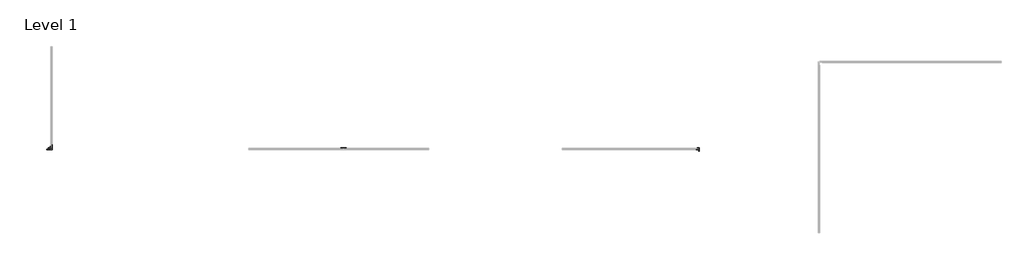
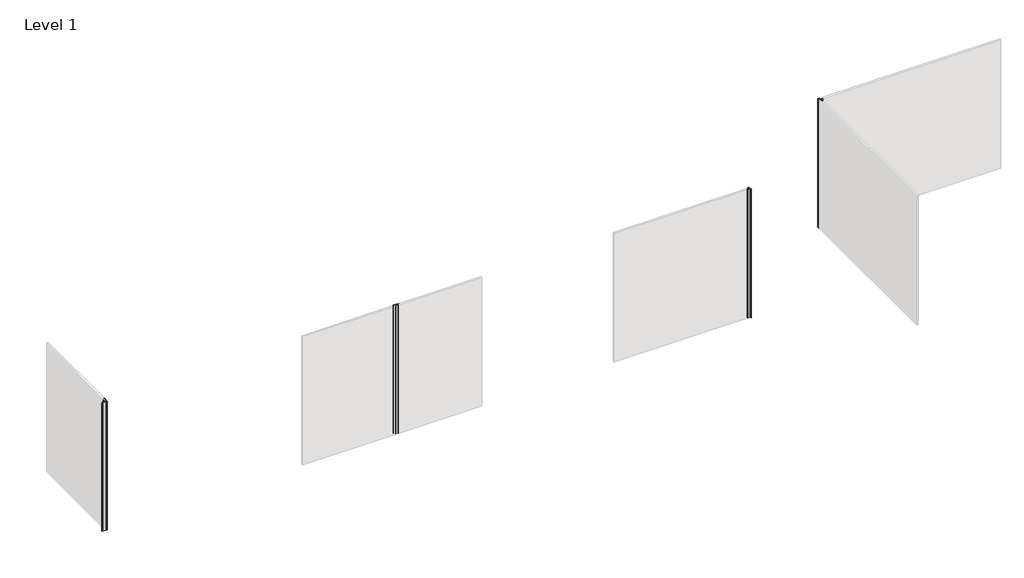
# One storey, part 2 of 2: 4 proxies.
"""IFC4 building model written with IfcOpenShell, lengths in millimetres."""

from ifc_helpers import new_model, si_unit, point, frame, frame_2d, origin, place, context, project, spatial, polyline, circle_curve, trimmed, segment, composite_curve, outline, extrude, element, save
from ifc_brep_helpers import plane_surface, cylinder_surface, revolved_surface, advanced_brep

model = new_model("IFC4")

# Units and contexts
model_context = context("Model", 3, world=origin())
ifc_project = project(units=[si_unit("LENGTHUNIT", "METRE", prefix="MILLI")], contexts=[model_context])

# Site, building, storey
site = spatial("IfcSite", under=ifc_project)
building = spatial("IfcBuilding", under=site)
storey = spatial("IfcBuildingStorey", under=building, Name="Level 1", Elevation=0.0)

# Proxies
placement = place(None, origin())
element("IfcBuildingElementProxy", 1, Name="End Trim US44 - Brazilian Ipe", ObjectType="End Trim US44 - Brazilian Ipe", at=placement, inside=storey, context=model_context, shape_type="SweptSolid", body=[
    extrude(outline(composite_curve([segment(polyline([(-3956.7244107, -3552.517134), (-3990.2244107, -3552.517134)]), True, "CONTINUOUS"), segment(trimmed(circle_curve(frame_2d((-3990.2244107, -3550.517134)), 2.0), [point((-3990.2244107, -3552.517134))], [point((-3992.2244107, -3550.517134))], False, "CARTESIAN"), True, "CONTINUOUS"), segment(polyline([(-3992.2244107, -3550.517134), (-3992.2244107, -3546.017134)]), True, "CONTINUOUS"), segment(trimmed(circle_curve(frame_2d((-3991.2244107, -3546.017134)), 1.0), [point((-3992.2244107, -3546.017134))], [point((-3991.2244107, -3545.017134))], False, "CARTESIAN"), True, "CONTINUOUS"), segment(polyline([(-3991.2244107, -3545.017134), (-3956.2244107, -3545.017134)]), True, "CONTINUOUS"), segment(trimmed(circle_curve(frame_2d((-3956.2244107, -3544.017134)), 1.0), [point((-3956.2244107, -3545.017134))], [point((-3955.2244107, -3544.017134))], True, "CARTESIAN"), True, "CONTINUOUS"), segment(polyline([(-3955.2244107, -3544.017134), (-3955.2244107, -3532.017134)]), True, "CONTINUOUS"), segment(trimmed(circle_curve(frame_2d((-3956.2244107, -3532.017134)), 1.0), [point((-3955.2244107, -3532.017134))], [point((-3956.2244107, -3531.017134))], True, "CARTESIAN"), True, "CONTINUOUS"), segment(polyline([(-3956.2244107, -3531.017134), (-3971.2244107, -3531.017134)]), True, "CONTINUOUS"), segment(trimmed(circle_curve(frame_2d((-3971.2244107, -3530.017134)), 1.0), [point((-3971.2244107, -3531.017134))], [point((-3972.2244107, -3530.017134))], False, "CARTESIAN"), True, "CONTINUOUS"), segment(polyline([(-3972.2244107, -3530.017134), (-3972.2244107, -3527.517134)]), True, "CONTINUOUS"), segment(trimmed(circle_curve(frame_2d((-3970.2244107, -3527.517134)), 2.0), [point((-3972.2244107, -3527.517134))], [point((-3970.2244107, -3525.517134))], False, "CARTESIAN"), True, "CONTINUOUS"), segment(polyline([(-3970.2244107, -3525.517134), (-3952.2244107, -3525.517134)]), True, "CONTINUOUS"), segment(trimmed(circle_curve(frame_2d((-3952.2244107, -3527.517134)), 2.0), [point((-3952.2244107, -3525.517134))], [point((-3950.2244107, -3527.517134))], False, "CARTESIAN"), True, "CONTINUOUS"), segment(polyline([(-3950.2244107, -3527.517134), (-3950.2244107, -3571.517134)]), True, "CONTINUOUS"), segment(trimmed(circle_curve(frame_2d((-3951.2244107, -3571.517134)), 1.0), [point((-3950.2244107, -3571.517134))], [point((-3951.2244107, -3572.517134))], False, "CARTESIAN"), True, "CONTINUOUS"), segment(polyline([(-3951.2244107, -3572.517134), (-3954.2244107, -3572.517134)]), True, "CONTINUOUS"), segment(trimmed(circle_curve(frame_2d((-3954.2244107, -3571.517134)), 1.0), [point((-3954.2244107, -3572.517134))], [point((-3955.2244107, -3571.517134))], False, "CARTESIAN"), True, "CONTINUOUS"), segment(polyline([(-3955.2244107, -3571.517134), (-3955.2244107, -3554.017134)]), True, "CONTINUOUS"), segment(trimmed(circle_curve(frame_2d((-3956.7244107, -3554.017134)), 1.5), [point((-3955.2244107, -3554.017134))], [point((-3956.7244107, -3552.517134))], True, "CARTESIAN"), True, "CONTINUOUS")], self_intersect=False)), frame((0.0, 0.0, 304.8), z_axis=(0.0, 0.0, 1.0), x_axis=(1.0, 0.0, 0.0)), (0.0, 0.0, 1.0), 1828.8),
])
element("IfcBuildingElementProxy", 2, Name="Outer Corner US46 - Wesminister Gray", ObjectType="Outer Corner US46 - Wesminister Gray", at=placement, inside=storey, context=model_context, shape_type="AdvancedBrep", body=[
    advanced_brep(
    [(-2340.5890039, -2423.6995325, 304.8), (-2341.5890039, -2422.6995325, 304.8), (-2341.5890039, -2387.2185217, 304.8), (-2342.1411345, -2385.5260816, 304.8), (-2352.373264, -2375.2939521, 304.8), (-2355.5890039, -2376.8350959, 304.8), (-2355.5890039, -2388.0782122, 304.8), (-2356.5890039, -2389.0782122, 304.8), (-2359.0890039, -2389.0782122, 304.8), (-2361.0890039, -2387.0782122, 304.8), (-2361.0890039, -2365.0302512, 304.8), (-2359.1014309, -2363.0426783, 304.8), (-2337.05347, -2363.0426783, 304.8), (-2335.05347, -2365.0426783, 304.8), (-2335.05347, -2367.5426783, 304.8), (-2336.05347, -2368.5426783, 304.8), (-2347.2965862, -2368.5426783, 304.8), (-2348.8377301, -2371.7584181, 304.8), (-2338.6056005, -2381.9905477, 304.8), (-2336.9131605, -2382.5426783, 304.8), (-2334.9515039, -2382.5426783, 304.8), (-2301.4321496, -2382.5426783, 304.8), (-2300.4321496, -2383.5426783, 304.8), (-2300.4321496, -2388.0426783, 304.8), (-2300.7869838, -2389.1796861, 304.8), (-2302.4321496, -2390.0426783, 304.8), (-2332.0700561, -2390.0426783, 304.8), (-2334.0890039, -2392.0616261, 304.8), (-2334.0890039, -2421.6995325, 304.8), (-2336.0890039, -2423.6995325, 304.8), (-2340.5890039, -2423.6995325, 2133.6), (-2336.0890039, -2423.6995325, 2133.6), (-2334.0890039, -2421.6995325, 2133.6), (-2334.0890039, -2392.0616261, 2133.6), (-2332.0700561, -2390.0426783, 2133.6), (-2302.4321496, -2390.0426783, 2133.6), (-2300.7869838, -2389.1796861, 2133.6), (-2300.4321496, -2388.0426783, 2133.6), (-2300.4321496, -2383.5426783, 2133.6), (-2301.4321496, -2382.5426783, 2133.6), (-2334.9515039, -2382.5426783, 2133.6), (-2336.9131605, -2382.5426783, 2133.6), (-2338.6056005, -2381.9905477, 2133.6), (-2348.8377301, -2371.7584181, 2133.6), (-2347.2965862, -2368.5426783, 2133.6), (-2336.05347, -2368.5426783, 2133.6), (-2335.05347, -2367.5426783, 2133.6), (-2335.05347, -2365.0426783, 2133.6), (-2337.05347, -2363.0426783, 2133.6), (-2359.1014309, -2363.0426783, 2133.6), (-2361.0890039, -2365.0302512, 2133.6), (-2361.0890039, -2387.0782122, 2133.6), (-2359.0890039, -2389.0782122, 2133.6), (-2356.5890039, -2389.0782122, 2133.6), (-2355.5890039, -2388.0782122, 2133.6), (-2355.5890039, -2376.8350959, 2133.6), (-2352.373264, -2375.2939521, 2133.6), (-2342.1411345, -2385.5260816, 2133.6), (-2341.5890039, -2387.2185217, 2133.6), (-2341.5890039, -2422.6995325, 2133.6)],
    [
        (0, 1, circle_curve(frame((-2340.5890039, -2422.6995325, 304.8), z_axis=(0.0, 0.0, -1.0), x_axis=(-1.0, 0.0, 0.0)), 1.0)),
        (1, 2),
        (2, 3, circle_curve(frame((-2343.5307579, -2386.915705, 304.8), z_axis=(0.0, 0.0, 1.0), x_axis=(-1.0, 0.0, 0.0)), 1.9652243)),
        (3, 4),
        (4, 5, circle_curve(frame((-2353.6118372, -2376.8350959, 304.8), z_axis=(0.0, 0.0, 1.0), x_axis=(-1.0, 0.0, 0.0)), 1.9771667)),
        (5, 6),
        (6, 7, circle_curve(frame((-2356.5890039, -2388.0782122, 304.8), z_axis=(0.0, 0.0, -1.0), x_axis=(-1.0, 0.0, 0.0)), 1.0)),
        (7, 8),
        (8, 9, circle_curve(frame((-2359.0890039, -2387.0782122, 304.8), z_axis=(0.0, 0.0, -1.0), x_axis=(-1.0, 0.0, 0.0)), 2.0)),
        (9, 10),
        (10, 11, circle_curve(frame((-2359.0890422, -2365.0426399, 304.8), z_axis=(0.0, 0.0, -1.0), x_axis=(-1.0, 0.0, 0.0)), 2.0)),
        (11, 12),
        (12, 13, circle_curve(frame((-2337.05347, -2365.0426783, 304.8), z_axis=(0.0, 0.0, -1.0), x_axis=(-1.0, 0.0, 0.0)), 2.0)),
        (13, 14),
        (14, 15, circle_curve(frame((-2336.05347, -2367.5426783, 304.8), z_axis=(0.0, 0.0, -1.0), x_axis=(-1.0, 0.0, 0.0)), 1.0)),
        (15, 16),
        (16, 17, circle_curve(frame((-2347.2965862, -2370.5198449, 304.8), z_axis=(0.0, 0.0, 1.0), x_axis=(-1.0, 0.0, 0.0)), 1.9771667)),
        (17, 18),
        (18, 19, circle_curve(frame((-2337.2159771, -2380.6009243, 304.8), z_axis=(0.0, 0.0, 1.0), x_axis=(-1.0, 0.0, 0.0)), 1.9652243)),
        (19, 20),
        (20, 21),
        (21, 22, circle_curve(frame((-2301.4321496, -2383.5426783, 304.8), z_axis=(0.0, 0.0, -1.0), x_axis=(-1.0, 0.0, 0.0)), 1.0)),
        (22, 23),
        (23, 24, circle_curve(frame((-2302.4321496, -2388.0426783, 304.8), z_axis=(0.0, 0.0, -1.0), x_axis=(-1.0, 0.0, 0.0)), 2.0)),
        (24, 25, circle_curve(frame((-2302.4321496, -2388.0426783, 304.8), z_axis=(0.0, 0.0, -1.0), x_axis=(-1.0, 0.0, 0.0)), 1.9998394)),
        (25, 26),
        (26, 27, circle_curve(frame((-2332.2923641, -2391.8393181, 304.8), z_axis=(0.0, 0.0, 1.0), x_axis=(-1.0, 0.0, 0.0)), 1.8103413)),
        (27, 28),
        (28, 29, circle_curve(frame((-2336.0890039, -2421.6995325, 304.8), z_axis=(0.0, 0.0, -1.0), x_axis=(-1.0, 0.0, 0.0)), 2.0)),
        (29, 0),
        (30, 31),
        (31, 32, circle_curve(frame((-2336.0890039, -2421.6995325, 2133.6), z_axis=(0.0, 0.0, 1.0), x_axis=(-1.0, 0.0, 0.0)), 2.0)),
        (32, 33),
        (33, 34, circle_curve(frame((-2332.2923641, -2391.8393181, 2133.6), z_axis=(0.0, 0.0, -1.0), x_axis=(-1.0, 0.0, 0.0)), 1.8103413)),
        (34, 35),
        (35, 36, circle_curve(frame((-2302.4321496, -2388.0426783, 2133.6), z_axis=(0.0, 0.0, 1.0), x_axis=(-1.0, 0.0, 0.0)), 2.0)),
        (36, 37, circle_curve(frame((-2302.4321496, -2388.0426783, 2133.6), z_axis=(0.0, 0.0, 1.0), x_axis=(-1.0, 0.0, 0.0)), 1.9998394)),
        (37, 38),
        (38, 39, circle_curve(frame((-2301.4321496, -2383.5426783, 2133.6), z_axis=(0.0, 0.0, 1.0), x_axis=(-1.0, 0.0, 0.0)), 1.0)),
        (39, 40),
        (40, 41),
        (41, 42, circle_curve(frame((-2337.2159771, -2380.6009243, 2133.6), z_axis=(0.0, 0.0, -1.0), x_axis=(-1.0, 0.0, 0.0)), 1.9652243)),
        (42, 43),
        (43, 44, circle_curve(frame((-2347.2965862, -2370.5198449, 2133.6), z_axis=(0.0, 0.0, -1.0), x_axis=(-1.0, 0.0, 0.0)), 1.9771667)),
        (44, 45),
        (45, 46, circle_curve(frame((-2336.05347, -2367.5426783, 2133.6), z_axis=(0.0, 0.0, 1.0), x_axis=(-1.0, 0.0, 0.0)), 1.0)),
        (46, 47),
        (47, 48, circle_curve(frame((-2337.05347, -2365.0426783, 2133.6), z_axis=(0.0, 0.0, 1.0), x_axis=(-1.0, 0.0, 0.0)), 2.0)),
        (48, 49),
        (49, 50, circle_curve(frame((-2359.0890422, -2365.0426399, 2133.6), z_axis=(0.0, 0.0, 1.0), x_axis=(-1.0, 0.0, 0.0)), 2.0)),
        (50, 51),
        (51, 52, circle_curve(frame((-2359.0890039, -2387.0782122, 2133.6), z_axis=(0.0, 0.0, 1.0), x_axis=(-1.0, 0.0, 0.0)), 2.0)),
        (52, 53),
        (53, 54, circle_curve(frame((-2356.5890039, -2388.0782122, 2133.6), z_axis=(0.0, 0.0, 1.0), x_axis=(-1.0, 0.0, 0.0)), 1.0)),
        (54, 55),
        (55, 56, circle_curve(frame((-2353.6118372, -2376.8350959, 2133.6), z_axis=(0.0, 0.0, -1.0), x_axis=(-1.0, 0.0, 0.0)), 1.9771667)),
        (56, 57),
        (57, 58, circle_curve(frame((-2343.5307579, -2386.915705, 2133.6), z_axis=(0.0, 0.0, -1.0), x_axis=(-1.0, 0.0, 0.0)), 1.9652243)),
        (58, 59),
        (59, 30, circle_curve(frame((-2340.5890039, -2422.6995325, 2133.6), z_axis=(0.0, 0.0, 1.0), x_axis=(-1.0, 0.0, 0.0)), 1.0)),
        (0, 30),
        (59, 1),
        (58, 2),
        (57, 3),
        (56, 4),
        (55, 5),
        (54, 6),
        (53, 7),
        (52, 8),
        (51, 9),
        (50, 10),
        (49, 11),
        (48, 12),
        (47, 13),
        (46, 14),
        (45, 15),
        (44, 16),
        (43, 17),
        (42, 18),
        (41, 19),
        (39, 21),
        (38, 22),
        (37, 23),
        (35, 25),
        (34, 26),
        (33, 27),
        (32, 28),
        (31, 29),
    ],
    [
        plane_surface(frame((-2355.5890039, -2427.0450592, 304.8), z_axis=(0.0, 0.0, -1.0), x_axis=(1.0, 0.0, 0.0))),
        plane_surface(frame((-2355.5890039, -2427.0450592, 2133.6), z_axis=(0.0, 0.0, 1.0), x_axis=(1.0, 0.0, 0.0))),
        cylinder_surface(frame((-2340.5890039, -2422.6995325, 304.8), z_axis=(0.0, 0.0, -1.0), x_axis=(-1.0, 0.0, 0.0)), 1.0),
        plane_surface(frame((-2341.5890039, -2422.6995325, 304.8), z_axis=(-1.0, 0.0, 0.0), x_axis=(0.0, 0.0, 1.0))),
        revolved_surface(polyline([(-2345.4959822, -2386.915705, 2133.6), (-2345.4959822, -2386.915705, 304.8)]), (-2343.5307579, -2386.915705, 304.8), (0.0, 0.0, 1.0)),
        plane_surface(frame((-2342.1411345, -2385.5260816, 304.8), z_axis=(-0.7071067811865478, -0.7071067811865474, 0.0), x_axis=(0.0, 0.0, 1.0))),
        revolved_surface(polyline([(-2355.5890039, -2376.8350959, 2133.6), (-2355.5890039, -2376.8350959, 304.8)]), (-2353.6118372, -2376.8350959, 304.8), (0.0, 0.0, 1.0)),
        plane_surface(frame((-2355.5890039, -2376.8350959, 304.8), z_axis=(1.0, 0.0, 0.0), x_axis=(0.0, 0.0, 1.0))),
        cylinder_surface(frame((-2356.5890039, -2388.0782122, 304.8), z_axis=(0.0, 0.0, -1.0), x_axis=(-1.0, 0.0, 0.0)), 1.0),
        plane_surface(frame((-2356.5890039, -2389.0782122, 304.8), z_axis=(0.0, -1.0, 0.0), x_axis=(0.0, 0.0, 1.0))),
        cylinder_surface(frame((-2359.0890039, -2387.0782122, 304.8), z_axis=(0.0, 0.0, -1.0), x_axis=(-1.0, 0.0, 0.0)), 2.0),
        plane_surface(frame((-2361.0890039, -2387.0782122, 304.8), z_axis=(-1.0, 0.0, 0.0), x_axis=(0.0, 0.0, 1.0))),
        cylinder_surface(frame((-2359.0890422, -2365.0426399, 304.8), z_axis=(0.0, 0.0, -1.0), x_axis=(-1.0, 0.0, 0.0)), 2.0),
        plane_surface(frame((-2359.1014309, -2363.0426783, 304.8), z_axis=(0.0, 1.0, 0.0), x_axis=(0.0, 0.0, 1.0))),
        cylinder_surface(frame((-2337.05347, -2365.0426783, 304.8), z_axis=(0.0, 0.0, -1.0), x_axis=(-1.0, 0.0, 0.0)), 2.0),
        plane_surface(frame((-2335.05347, -2365.0426783, 304.8), z_axis=(1.0, 0.0, 0.0), x_axis=(0.0, 0.0, 1.0))),
        cylinder_surface(frame((-2336.05347, -2367.5426783, 304.8), z_axis=(0.0, 0.0, -1.0), x_axis=(-1.0, 0.0, 0.0)), 1.0),
        plane_surface(frame((-2336.05347, -2368.5426783, 304.8), z_axis=(0.0, -1.0, 0.0), x_axis=(0.0, 0.0, 1.0))),
        revolved_surface(polyline([(-2349.2737529, -2370.5198449, 2133.6), (-2349.2737529, -2370.5198449, 304.8)]), (-2347.2965862, -2370.5198449, 304.8), (0.0, 0.0, 1.0)),
        plane_surface(frame((-2348.8377301, -2371.7584181, 304.8), z_axis=(0.7071067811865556, 0.7071067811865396, 0.0), x_axis=(0.0, 0.0, 1.0))),
        revolved_surface(polyline([(-2339.1812014, -2380.6009243, 2133.6), (-2339.1812014, -2380.6009243, 304.8)]), (-2337.2159771, -2380.6009243, 304.8), (0.0, 0.0, 1.0)),
        plane_surface(frame((-2336.9131605, -2382.5426783, 304.8), z_axis=(0.0, 1.0, 0.0), x_axis=(0.0, 0.0, 1.0))),
        cylinder_surface(frame((-2301.4321496, -2383.5426783, 304.8), z_axis=(0.0, 0.0, -1.0), x_axis=(-1.0, 0.0, 0.0)), 1.0),
        plane_surface(frame((-2300.4321496, -2383.5426783, 304.8), z_axis=(1.0, 0.0, 0.0), x_axis=(0.0, 0.0, 1.0))),
        cylinder_surface(frame((-2302.4321496, -2388.0426783, 304.8), z_axis=(0.0, 0.0, -1.0), x_axis=(-1.0, 0.0, 0.0)), 2.0),
        plane_surface(frame((-2302.4321496, -2390.0426783, 304.8), z_axis=(0.0, -1.0, 0.0), x_axis=(0.0, 0.0, 1.0))),
        revolved_surface(polyline([(-2334.1027054, -2391.8393181, 2133.6), (-2334.1027054, -2391.8393181, 304.8)]), (-2332.2923641, -2391.8393181, 304.8), (0.0, 0.0, 1.0)),
        plane_surface(frame((-2334.0890039, -2392.0616261, 304.8), z_axis=(1.0, 0.0, 0.0), x_axis=(0.0, 0.0, 1.0))),
        cylinder_surface(frame((-2336.0890039, -2421.6995325, 304.8), z_axis=(0.0, 0.0, -1.0), x_axis=(-1.0, 0.0, 0.0)), 2.0),
        plane_surface(frame((-2336.0890039, -2423.6995325, 304.8), z_axis=(0.0, -1.0, 0.0), x_axis=(0.0, 0.0, 1.0))),
    ],
    [
        (0, [[1, 2, 3, 4, 5, 6, 7, 8, 9, 10, 11, 12, 13, 14, 15, 16, 17, 18, 19, 20, 21, 22, 23, 24, 25, 26, 27, 28, 29, 30]]),
        (1, [[31, 32, 33, 34, 35, 36, 37, 38, 39, 40, 41, 42, 43, 44, 45, 46, 47, 48, 49, 50, 51, 52, 53, 54, 55, 56, 57, 58, 59, 60]]),
        (2, [[-1, 61, -60, 62]]),
        (3, [[-2, -62, -59, 63]]),
        (4, [[-3, -63, -58, 64]]),
        (5, [[-4, -64, -57, 65]]),
        (6, [[-5, -65, -56, 66]]),
        (7, [[-6, -66, -55, 67]]),
        (8, [[-7, -67, -54, 68]]),
        (9, [[-8, -68, -53, 69]]),
        (10, [[-9, -69, -52, 70]]),
        (11, [[-10, -70, -51, 71]]),
        (12, [[-11, -71, -50, 72]]),
        (13, [[-12, -72, -49, 73]]),
        (14, [[-13, -73, -48, 74]]),
        (15, [[-14, -74, -47, 75]]),
        (16, [[-15, -75, -46, 76]]),
        (17, [[-16, -76, -45, 77]]),
        (18, [[-17, -77, -44, 78]]),
        (19, [[-18, -78, -43, 79]]),
        (20, [[-19, -79, -42, 80]]),
        (21, [[-21, -20, -80, -41, -40, 81]]),
        (22, [[-22, -81, -39, 82]]),
        (23, [[-23, -82, -38, 83]]),
        (24, [[-25, -24, -83, -37, -36, 84]]),
        (25, [[-26, -84, -35, 85]]),
        (26, [[-27, -85, -34, 86]]),
        (27, [[-28, -86, -33, 87]]),
        (28, [[-29, -87, -32, 88]]),
        (29, [[-30, -88, -31, -61]]),
    ],
),
])
element("IfcBuildingElementProxy", 3, Name="Joint Trim US45 - Peruvian Teak", ObjectType="Joint Trim US45 - Peruvian Teak", at=placement, inside=storey, context=model_context, shape_type="AdvancedBrep", body=[
    advanced_brep(
    [(-8671.7521319, -3523.517134, 304.8), (-8669.7521319, -3525.517134, 304.8), (-8669.7521319, -3530.017134, 304.8), (-8670.7521319, -3531.017134, 304.8), (-8705.2521319, -3531.017134, 304.8), (-8706.7521319, -3532.517134, 304.8), (-8706.7521319, -3545.017134, 304.8), (-8690.7521319, -3545.017134, 304.8), (-8689.7521319, -3546.017134, 304.8), (-8689.7521319, -3548.517134, 304.8), (-8691.7521319, -3550.517134, 304.8), (-8709.2521319, -3550.517134, 304.8), (-8726.7521319, -3550.517134, 304.8), (-8728.7521319, -3548.517134, 304.8), (-8728.7521319, -3546.017134, 304.8), (-8727.7521319, -3545.017134, 304.8), (-8711.7521319, -3545.017134, 304.8), (-8711.7521319, -3532.517134, 304.8), (-8713.2521319, -3531.017134, 304.8), (-8747.7521319, -3531.017134, 304.8), (-8748.7521319, -3530.017134, 304.8), (-8748.7521319, -3525.517134, 304.8), (-8746.7521319, -3523.517134, 304.8), (-8671.7521319, -3523.517134, 2133.6), (-8746.7521319, -3523.517134, 2133.6), (-8748.7521319, -3525.517134, 2133.6), (-8748.7521319, -3530.017134, 2133.6), (-8747.7521319, -3531.017134, 2133.6), (-8713.2521319, -3531.017134, 2133.6), (-8711.7521319, -3532.517134, 2133.6), (-8711.7521319, -3545.017134, 2133.6), (-8727.7521319, -3545.017134, 2133.6), (-8728.7521319, -3546.017134, 2133.6), (-8728.7521319, -3548.517134, 2133.6), (-8726.7521319, -3550.517134, 2133.6), (-8709.2521319, -3550.517134, 2133.6), (-8691.7521319, -3550.517134, 2133.6), (-8689.7521319, -3548.517134, 2133.6), (-8689.7521319, -3546.017134, 2133.6), (-8690.7521319, -3545.017134, 2133.6), (-8706.7521319, -3545.017134, 2133.6), (-8706.7521319, -3532.517134, 2133.6), (-8705.2521319, -3531.017134, 2133.6), (-8670.7521319, -3531.017134, 2133.6), (-8669.7521319, -3530.017134, 2133.6), (-8669.7521319, -3525.517134, 2133.6)],
    [
        (0, 1, circle_curve(frame((-8671.7521319, -3525.517134, 304.8), z_axis=(0.0, 0.0, -1.0), x_axis=(1.0, 0.0, 0.0)), 2.0)),
        (1, 2),
        (2, 3, circle_curve(frame((-8670.7521319, -3530.017134, 304.8), z_axis=(0.0, 0.0, -1.0), x_axis=(1.0, 0.0, 0.0)), 1.0)),
        (3, 4),
        (4, 5, circle_curve(frame((-8705.2521319, -3532.517134, 304.8), z_axis=(0.0, 0.0, 1.0), x_axis=(1.0, 0.0, 0.0)), 1.5)),
        (5, 6),
        (6, 7),
        (7, 8, circle_curve(frame((-8690.7521319, -3546.017134, 304.8), z_axis=(0.0, 0.0, -1.0), x_axis=(1.0, 0.0, 0.0)), 1.0)),
        (8, 9),
        (9, 10, circle_curve(frame((-8691.7521319, -3548.517134, 304.8), z_axis=(0.0, 0.0, -1.0), x_axis=(1.0, 0.0, 0.0)), 2.0)),
        (10, 11),
        (11, 12),
        (12, 13, circle_curve(frame((-8726.7521319, -3548.517134, 304.8), z_axis=(0.0, 0.0, -1.0), x_axis=(1.0, 0.0, 0.0)), 2.0)),
        (13, 14),
        (14, 15, circle_curve(frame((-8727.7521319, -3546.017134, 304.8), z_axis=(0.0, 0.0, -1.0), x_axis=(1.0, 0.0, 0.0)), 1.0)),
        (15, 16),
        (16, 17),
        (17, 18, circle_curve(frame((-8713.2521319, -3532.517134, 304.8), z_axis=(0.0, 0.0, 1.0), x_axis=(1.0, 0.0, 0.0)), 1.5)),
        (18, 19),
        (19, 20, circle_curve(frame((-8747.7521319, -3530.017134, 304.8), z_axis=(0.0, 0.0, -1.0), x_axis=(1.0, 0.0, 0.0)), 1.0)),
        (20, 21),
        (21, 22, circle_curve(frame((-8746.7521319, -3525.517134, 304.8), z_axis=(0.0, 0.0, -1.0), x_axis=(1.0, 0.0, 0.0)), 2.0)),
        (22, 0),
        (23, 24),
        (24, 25, circle_curve(frame((-8746.7521319, -3525.517134, 2133.6), z_axis=(0.0, 0.0, 1.0), x_axis=(1.0, 0.0, 0.0)), 2.0)),
        (25, 26),
        (26, 27, circle_curve(frame((-8747.7521319, -3530.017134, 2133.6), z_axis=(0.0, 0.0, 1.0), x_axis=(1.0, 0.0, 0.0)), 1.0)),
        (27, 28),
        (28, 29, circle_curve(frame((-8713.2521319, -3532.517134, 2133.6), z_axis=(0.0, 0.0, -1.0), x_axis=(1.0, 0.0, 0.0)), 1.5)),
        (29, 30),
        (30, 31),
        (31, 32, circle_curve(frame((-8727.7521319, -3546.017134, 2133.6), z_axis=(0.0, 0.0, 1.0), x_axis=(1.0, 0.0, 0.0)), 1.0)),
        (32, 33),
        (33, 34, circle_curve(frame((-8726.7521319, -3548.517134, 2133.6), z_axis=(0.0, 0.0, 1.0), x_axis=(1.0, 0.0, 0.0)), 2.0)),
        (34, 35),
        (35, 36),
        (36, 37, circle_curve(frame((-8691.7521319, -3548.517134, 2133.6), z_axis=(0.0, 0.0, 1.0), x_axis=(1.0, 0.0, 0.0)), 2.0)),
        (37, 38),
        (38, 39, circle_curve(frame((-8690.7521319, -3546.017134, 2133.6), z_axis=(0.0, 0.0, 1.0), x_axis=(1.0, 0.0, 0.0)), 1.0)),
        (39, 40),
        (40, 41),
        (41, 42, circle_curve(frame((-8705.2521319, -3532.517134, 2133.6), z_axis=(0.0, 0.0, -1.0), x_axis=(1.0, 0.0, 0.0)), 1.5)),
        (42, 43),
        (43, 44, circle_curve(frame((-8670.7521319, -3530.017134, 2133.6), z_axis=(0.0, 0.0, 1.0), x_axis=(1.0, 0.0, 0.0)), 1.0)),
        (44, 45),
        (45, 23, circle_curve(frame((-8671.7521319, -3525.517134, 2133.6), z_axis=(0.0, 0.0, 1.0), x_axis=(1.0, 0.0, 0.0)), 2.0)),
        (0, 23),
        (45, 1),
        (44, 2),
        (43, 3),
        (42, 4),
        (41, 5),
        (40, 6),
        (39, 7),
        (38, 8),
        (37, 9),
        (36, 10),
        (34, 12),
        (33, 13),
        (32, 14),
        (31, 15),
        (30, 16),
        (29, 17),
        (28, 18),
        (27, 19),
        (26, 20),
        (25, 21),
        (24, 22),
    ],
    [
        plane_surface(frame((-8709.2521319, -3570.8982072, 304.8), z_axis=(0.0, 0.0, -1.0), x_axis=(1.0, 0.0, 0.0))),
        plane_surface(frame((-8709.2521319, -3570.8982072, 2133.6), z_axis=(0.0, 0.0, 1.0), x_axis=(1.0, 0.0, 0.0))),
        cylinder_surface(frame((-8671.7521319, -3525.517134, 304.8), z_axis=(0.0, 0.0, -1.0), x_axis=(1.0, 0.0, 0.0)), 2.0),
        plane_surface(frame((-8669.7521319, -3525.517134, 304.8), z_axis=(1.0, 0.0, 0.0), x_axis=(0.0, 0.0, 1.0))),
        cylinder_surface(frame((-8670.7521319, -3530.017134, 304.8), z_axis=(0.0, 0.0, -1.0), x_axis=(1.0, 0.0, 0.0)), 1.0),
        plane_surface(frame((-8670.7521319, -3531.017134, 304.8), z_axis=(0.0, -1.0, 0.0), x_axis=(0.0, 0.0, 1.0))),
        revolved_surface(polyline([(-8703.7521319, -3532.517134, 2133.6), (-8703.7521319, -3532.517134, 304.8)]), (-8705.2521319, -3532.517134, 304.8), (0.0, 0.0, 1.0)),
        plane_surface(frame((-8706.7521319, -3532.517134, 304.8), z_axis=(1.0, 0.0, 0.0), x_axis=(0.0, 0.0, 1.0))),
        plane_surface(frame((-8706.7521319, -3545.017134, 304.8), z_axis=(0.0, 1.0, 0.0), x_axis=(0.0, 0.0, 1.0))),
        cylinder_surface(frame((-8690.7521319, -3546.017134, 304.8), z_axis=(0.0, 0.0, -1.0), x_axis=(1.0, 0.0, 0.0)), 1.0),
        plane_surface(frame((-8689.7521319, -3546.017134, 304.8), z_axis=(1.0, 0.0, 0.0), x_axis=(0.0, 0.0, 1.0))),
        cylinder_surface(frame((-8691.7521319, -3548.517134, 304.8), z_axis=(0.0, 0.0, -1.0), x_axis=(1.0, 0.0, 0.0)), 2.0),
        plane_surface(frame((-8691.7521319, -3550.517134, 304.8), z_axis=(0.0, -1.0, 0.0), x_axis=(0.0, 0.0, 1.0))),
        cylinder_surface(frame((-8726.7521319, -3548.517134, 304.8), z_axis=(0.0, 0.0, -1.0), x_axis=(1.0, 0.0, 0.0)), 2.0),
        plane_surface(frame((-8728.7521319, -3548.517134, 304.8), z_axis=(-1.0, 0.0, 0.0), x_axis=(0.0, 0.0, 1.0))),
        cylinder_surface(frame((-8727.7521319, -3546.017134, 304.8), z_axis=(0.0, 0.0, -1.0), x_axis=(1.0, 0.0, 0.0)), 1.0),
        plane_surface(frame((-8727.7521319, -3545.017134, 304.8), z_axis=(0.0, 1.0, 0.0), x_axis=(0.0, 0.0, 1.0))),
        plane_surface(frame((-8711.7521319, -3545.017134, 304.8), z_axis=(-1.0, 0.0, 0.0), x_axis=(0.0, 0.0, 1.0))),
        revolved_surface(polyline([(-8711.7521319, -3532.517134, 2133.6), (-8711.7521319, -3532.517134, 304.8)]), (-8713.2521319, -3532.517134, 304.8), (0.0, 0.0, 1.0)),
        plane_surface(frame((-8713.2521319, -3531.017134, 304.8), z_axis=(0.0, -1.0, 0.0), x_axis=(0.0, 0.0, 1.0))),
        cylinder_surface(frame((-8747.7521319, -3530.017134, 304.8), z_axis=(0.0, 0.0, -1.0), x_axis=(1.0, 0.0, 0.0)), 1.0),
        plane_surface(frame((-8748.7521319, -3530.017134, 304.8), z_axis=(-1.0, 0.0, 0.0), x_axis=(0.0, 0.0, 1.0))),
        cylinder_surface(frame((-8746.7521319, -3525.517134, 304.8), z_axis=(0.0, 0.0, -1.0), x_axis=(1.0, 0.0, 0.0)), 2.0),
        plane_surface(frame((-8746.7521319, -3523.517134, 304.8), z_axis=(0.0, 1.0, 0.0), x_axis=(0.0, 0.0, 1.0))),
    ],
    [
        (0, [[1, 2, 3, 4, 5, 6, 7, 8, 9, 10, 11, 12, 13, 14, 15, 16, 17, 18, 19, 20, 21, 22, 23]]),
        (1, [[24, 25, 26, 27, 28, 29, 30, 31, 32, 33, 34, 35, 36, 37, 38, 39, 40, 41, 42, 43, 44, 45, 46]]),
        (2, [[-1, 47, -46, 48]]),
        (3, [[-2, -48, -45, 49]]),
        (4, [[-3, -49, -44, 50]]),
        (5, [[-4, -50, -43, 51]]),
        (6, [[-5, -51, -42, 52]]),
        (7, [[-6, -52, -41, 53]]),
        (8, [[-7, -53, -40, 54]]),
        (9, [[-8, -54, -39, 55]]),
        (10, [[-9, -55, -38, 56]]),
        (11, [[-10, -56, -37, 57]]),
        (12, [[-12, -11, -57, -36, -35, 58]]),
        (13, [[-13, -58, -34, 59]]),
        (14, [[-14, -59, -33, 60]]),
        (15, [[-15, -60, -32, 61]]),
        (16, [[-16, -61, -31, 62]]),
        (17, [[-17, -62, -30, 63]]),
        (18, [[-18, -63, -29, 64]]),
        (19, [[-19, -64, -28, 65]]),
        (20, [[-20, -65, -27, 66]]),
        (21, [[-21, -66, -26, 67]]),
        (22, [[-22, -67, -25, 68]]),
        (23, [[-23, -68, -24, -47]]),
    ],
),
])
element("IfcBuildingElementProxy", 4, Name="Inner Corner US47 - Roman Antique", ObjectType="Inner Corner US47 - Roman Antique", at=placement, inside=storey, context=model_context, shape_type="AdvancedBrep", body=[
    advanced_brep(
    [(-12619.3380346, -3539.3144474, 304.8), (-12617.1708819, -3538.4049191, 304.8), (-12617.1708819, -3531.017134, 304.8), (-12617.1708819, -3479.6244754, 304.8), (-12615.1708819, -3477.6244754, 304.8), (-12610.6708819, -3477.6244754, 304.8), (-12609.6708819, -3478.6244754, 304.8), (-12609.6708819, -3550.5169168, 304.8), (-12611.6708819, -3552.5169168, 304.8), (-12683.5637578, -3552.5169168, 304.8), (-12684.5637578, -3551.5169168, 304.8), (-12684.5637578, -3547.0169168, 304.8), (-12682.5637578, -3545.0169168, 304.8), (-12623.7975574, -3545.0169168, 304.8), (-12622.8735686, -3542.8499813, 304.8), (-12634.1542852, -3531.5692646, 304.8), (-12635.2414432, -3531.0171852, 304.8), (-12635.8467253, -3531.017134, 304.8), (-12657.8946863, -3531.017134, 304.8), (-12659.8946863, -3529.017134, 304.8), (-12659.8946863, -3526.517134, 304.8), (-12658.8946863, -3525.517134, 304.8), (-12638.6708819, -3525.517134, 304.8), (-12636.6708819, -3523.517134, 304.8), (-12636.6708819, -3503.2933296, 304.8), (-12635.6708819, -3502.2933296, 304.8), (-12633.1708819, -3502.2933296, 304.8), (-12631.1708819, -3504.2933296, 304.8), (-12631.1708819, -3526.3412906, 304.8), (-12630.6187513, -3528.0337307, 304.8), (-12627.635348, -3531.017134, 304.8), (-12619.3380346, -3539.3144474, 2133.6), (-12627.635348, -3531.017134, 2133.6), (-12630.6187513, -3528.0337307, 2133.6), (-12631.1708819, -3526.3412906, 2133.6), (-12631.1708819, -3504.2933296, 2133.6), (-12633.1708819, -3502.2933296, 2133.6), (-12635.6708819, -3502.2933296, 2133.6), (-12636.6708819, -3503.2933296, 2133.6), (-12636.6708819, -3523.517134, 2133.6), (-12638.6708819, -3525.517134, 2133.6), (-12658.8946863, -3525.517134, 2133.6), (-12659.8946863, -3526.517134, 2133.6), (-12659.8946863, -3529.017134, 2133.6), (-12657.8946863, -3531.017134, 2133.6), (-12635.8467253, -3531.017134, 2133.6), (-12635.2414432, -3531.0171852, 2133.6), (-12634.1542852, -3531.5692646, 2133.6), (-12622.8735686, -3542.8499813, 2133.6), (-12623.7975574, -3545.0169168, 2133.6), (-12682.5637578, -3545.0169168, 2133.6), (-12684.5637578, -3547.0169168, 2133.6), (-12684.5637578, -3551.5169168, 2133.6), (-12683.5637578, -3552.5169168, 2133.6), (-12611.6708819, -3552.5169168, 2133.6), (-12609.6708819, -3550.5169168, 2133.6), (-12609.6708819, -3478.6244754, 2133.6), (-12610.6708819, -3477.6244754, 2133.6), (-12615.1708819, -3477.6244754, 2133.6), (-12617.1708819, -3479.6244754, 2133.6), (-12617.1708819, -3531.017134, 2133.6), (-12617.1708819, -3538.4049191, 2133.6)],
    [
        (0, 1, circle_curve(frame((-12618.4403477, -3538.4167605, 304.8), z_axis=(0.0, 0.0, 1.0), x_axis=(-0.7071067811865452, 0.7071067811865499, 0.0)), 1.269521)),
        (1, 2),
        (2, 3),
        (3, 4, circle_curve(frame((-12615.1708819, -3479.6244754, 304.8), z_axis=(0.0, 0.0, -1.0), x_axis=(0.7071067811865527, 0.7071067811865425, 0.0)), 2.0)),
        (4, 5),
        (5, 6, circle_curve(frame((-12610.6708819, -3478.6244754, 304.8), z_axis=(0.0, 0.0, -1.0), x_axis=(0.7071067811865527, 0.7071067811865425, 0.0)), 1.0)),
        (6, 7),
        (7, 8, circle_curve(frame((-12611.6708819, -3550.5169168, 304.8), z_axis=(0.0, 0.0, -1.0), x_axis=(-1.0, 0.0, 0.0)), 2.0)),
        (8, 9),
        (9, 10, circle_curve(frame((-12683.5637578, -3551.5169168, 304.8), z_axis=(0.0, 0.0, -1.0), x_axis=(0.7071067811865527, 0.7071067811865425, 0.0)), 1.0)),
        (10, 11),
        (11, 12, circle_curve(frame((-12682.5637578, -3547.0169168, 304.8), z_axis=(0.0, 0.0, -1.0), x_axis=(0.7071067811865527, 0.7071067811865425, 0.0)), 2.0)),
        (12, 13),
        (13, 14, circle_curve(frame((-12623.7712555, -3543.7476682, 304.8), z_axis=(0.0, 0.0, 1.0), x_axis=(-0.7071067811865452, 0.7071067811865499, 0.0)), 1.269521)),
        (14, 15),
        (15, 16, circle_curve(frame((-12635.5439087, -3532.958888, 304.8), z_axis=(0.0, 0.0, 1.0), x_axis=(-0.7071067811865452, 0.7071067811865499, 0.0)), 1.9652243)),
        (16, 17, circle_curve(frame((-12635.5439087, -3532.958888, 304.8), z_axis=(0.0, 0.0, 1.0), x_axis=(-0.7071067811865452, 0.7071067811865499, 0.0)), 1.9651196)),
        (17, 18),
        (18, 19, circle_curve(frame((-12657.8946863, -3529.017134, 304.8), z_axis=(0.0, 0.0, -1.0), x_axis=(-1.0, 0.0, 0.0)), 2.0)),
        (19, 20),
        (20, 21, circle_curve(frame((-12658.8946863, -3526.517134, 304.8), z_axis=(0.0, 0.0, -1.0), x_axis=(-1.0, 0.0, 0.0)), 1.0)),
        (21, 22),
        (22, 23, circle_curve(frame((-12638.6708819, -3523.517134, 304.8), z_axis=(0.0, 0.0, 1.0), x_axis=(-1.0, 0.0, 0.0)), 2.0)),
        (23, 24),
        (24, 25, circle_curve(frame((-12635.6708819, -3503.2933296, 304.8), z_axis=(0.0, 0.0, -1.0), x_axis=(0.0, 1.0, 0.0)), 1.0)),
        (25, 26),
        (26, 27, circle_curve(frame((-12633.1708819, -3504.2933296, 304.8), z_axis=(0.0, 0.0, -1.0), x_axis=(0.0, 1.0, 0.0)), 2.0)),
        (27, 28),
        (28, 29, circle_curve(frame((-12629.2291279, -3526.6441073, 304.8), z_axis=(0.0, 0.0, 1.0), x_axis=(-0.7071067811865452, 0.7071067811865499, 0.0)), 1.9652243)),
        (29, 30),
        (30, 0),
        (31, 32),
        (32, 33),
        (33, 34, circle_curve(frame((-12629.2291279, -3526.6441073, 2133.6), z_axis=(0.0, 0.0, -1.0), x_axis=(-0.7071067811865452, 0.7071067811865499, 0.0)), 1.9652243)),
        (34, 35),
        (35, 36, circle_curve(frame((-12633.1708819, -3504.2933296, 2133.6), z_axis=(0.0, 0.0, 1.0), x_axis=(0.0, 1.0, 0.0)), 2.0)),
        (36, 37),
        (37, 38, circle_curve(frame((-12635.6708819, -3503.2933296, 2133.6), z_axis=(0.0, 0.0, 1.0), x_axis=(0.0, 1.0, 0.0)), 1.0)),
        (38, 39),
        (39, 40, circle_curve(frame((-12638.6708819, -3523.517134, 2133.6), z_axis=(0.0, 0.0, -1.0), x_axis=(-1.0, 0.0, 0.0)), 2.0)),
        (40, 41),
        (41, 42, circle_curve(frame((-12658.8946863, -3526.517134, 2133.6), z_axis=(0.0, 0.0, 1.0), x_axis=(-1.0, 0.0, 0.0)), 1.0)),
        (42, 43),
        (43, 44, circle_curve(frame((-12657.8946863, -3529.017134, 2133.6), z_axis=(0.0, 0.0, 1.0), x_axis=(-1.0, 0.0, 0.0)), 2.0)),
        (44, 45),
        (45, 46, circle_curve(frame((-12635.5439087, -3532.958888, 2133.6), z_axis=(0.0, 0.0, -1.0), x_axis=(-0.7071067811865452, 0.7071067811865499, 0.0)), 1.9652243)),
        (46, 47, circle_curve(frame((-12635.5439087, -3532.958888, 2133.6), z_axis=(0.0, 0.0, -1.0), x_axis=(-0.7071067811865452, 0.7071067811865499, 0.0)), 1.9651196)),
        (47, 48),
        (48, 49, circle_curve(frame((-12623.7712555, -3543.7476682, 2133.6), z_axis=(0.0, 0.0, -1.0), x_axis=(-0.7071067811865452, 0.7071067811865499, 0.0)), 1.269521)),
        (49, 50),
        (50, 51, circle_curve(frame((-12682.5637578, -3547.0169168, 2133.6), z_axis=(0.0, 0.0, 1.0), x_axis=(0.7071067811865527, 0.7071067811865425, 0.0)), 2.0)),
        (51, 52),
        (52, 53, circle_curve(frame((-12683.5637578, -3551.5169168, 2133.6), z_axis=(0.0, 0.0, 1.0), x_axis=(0.7071067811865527, 0.7071067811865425, 0.0)), 1.0)),
        (53, 54),
        (54, 55, circle_curve(frame((-12611.6708819, -3550.5169168, 2133.6), z_axis=(0.0, 0.0, 1.0), x_axis=(-1.0, 0.0, 0.0)), 2.0)),
        (55, 56),
        (56, 57, circle_curve(frame((-12610.6708819, -3478.6244754, 2133.6), z_axis=(0.0, 0.0, 1.0), x_axis=(0.7071067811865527, 0.7071067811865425, 0.0)), 1.0)),
        (57, 58),
        (58, 59, circle_curve(frame((-12615.1708819, -3479.6244754, 2133.6), z_axis=(0.0, 0.0, 1.0), x_axis=(0.7071067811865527, 0.7071067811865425, 0.0)), 2.0)),
        (59, 60),
        (60, 61),
        (61, 31, circle_curve(frame((-12618.4403477, -3538.4167605, 2133.6), z_axis=(0.0, 0.0, -1.0), x_axis=(-0.7071067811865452, 0.7071067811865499, 0.0)), 1.269521)),
        (0, 31),
        (61, 1),
        (59, 3),
        (58, 4),
        (57, 5),
        (56, 6),
        (55, 7),
        (54, 8),
        (53, 9),
        (52, 10),
        (51, 11),
        (50, 12),
        (49, 13),
        (48, 14),
        (47, 15),
        (45, 17),
        (44, 18),
        (43, 19),
        (42, 20),
        (41, 21),
        (40, 22),
        (39, 23),
        (38, 24),
        (37, 25),
        (36, 26),
        (35, 27),
        (34, 28),
        (33, 29),
    ],
    [
        plane_surface(frame((-12631.1708819, -3588.2101431, 304.8), z_axis=(0.0, 0.0, -1.0), x_axis=(1.0, 0.0, 0.0))),
        plane_surface(frame((-12631.1708819, -3588.2101431, 2133.6), z_axis=(0.0, 0.0, 1.0), x_axis=(1.0, 0.0, 0.0))),
        revolved_surface(polyline([(-12619.338034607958, -3537.519073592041, 2133.6), (-12619.338034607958, -3537.519073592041, 304.8)]), (-12618.4403477, -3538.4167605, 304.8), (0.0, 0.0, 1.0)),
        plane_surface(frame((-12617.1708819, -3538.4049191, 304.8), z_axis=(-1.0, 0.0, 0.0), x_axis=(0.0, 0.0, 1.0))),
        cylinder_surface(frame((-12615.1708819, -3479.6244754, 304.8), z_axis=(0.0, 0.0, -1.0000000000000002), x_axis=(0.7071067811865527, 0.7071067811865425, 0.0)), 2.0),
        plane_surface(frame((-12615.1708819, -3477.6244754, 304.8), z_axis=(0.0, 1.0, 0.0), x_axis=(0.0, 0.0, 1.0))),
        cylinder_surface(frame((-12610.6708819, -3478.6244754, 304.8), z_axis=(0.0, 0.0, -1.0000000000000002), x_axis=(0.7071067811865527, 0.7071067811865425, 0.0)), 1.0),
        plane_surface(frame((-12609.6708819, -3478.6244754, 304.8), z_axis=(1.0, 0.0, 0.0), x_axis=(0.0, 0.0, 1.0))),
        cylinder_surface(frame((-12611.6708819, -3550.5169168, 304.8), z_axis=(0.0, 0.0, -1.0), x_axis=(-1.0, 0.0, 0.0)), 2.0),
        plane_surface(frame((-12611.6708819, -3552.5169168, 304.8), z_axis=(0.0, -1.0, 0.0), x_axis=(0.0, 0.0, 1.0))),
        cylinder_surface(frame((-12683.5637578, -3551.5169168, 304.8), z_axis=(0.0, 0.0, -1.0000000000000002), x_axis=(0.7071067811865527, 0.7071067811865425, 0.0)), 1.0),
        plane_surface(frame((-12684.5637578, -3551.5169168, 304.8), z_axis=(-1.0, 0.0, 0.0), x_axis=(0.0, 0.0, 1.0))),
        cylinder_surface(frame((-12682.5637578, -3547.0169168, 304.8), z_axis=(0.0, 0.0, -1.0000000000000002), x_axis=(0.7071067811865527, 0.7071067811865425, 0.0)), 2.0),
        plane_surface(frame((-12682.5637578, -3545.0169168, 304.8), z_axis=(0.0, 1.0, 0.0), x_axis=(0.0, 0.0, 1.0))),
        revolved_surface(polyline([(-12624.668942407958, -3542.8499812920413, 2133.6), (-12624.668942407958, -3542.8499812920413, 304.8)]), (-12623.7712555, -3543.7476682, 304.8), (0.0, 0.0, 1.0)),
        plane_surface(frame((-12622.8735686, -3542.8499813, 304.8), z_axis=(-0.707106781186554, -0.7071067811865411, 0.0), x_axis=(0.0, 0.0, 1.0))),
        revolved_surface(polyline([(-12636.933532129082, -3531.5692645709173, 2133.6), (-12636.933532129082, -3531.5692645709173, 304.8)]), (-12635.5439087, -3532.958888, 304.8), (0.0, 0.0, 1.0)),
        plane_surface(frame((-12635.8467253, -3531.017134, 304.8), z_axis=(0.0, -1.0, 0.0), x_axis=(0.0, 0.0, 1.0))),
        cylinder_surface(frame((-12657.8946863, -3529.017134, 304.8), z_axis=(0.0, 0.0, -1.0), x_axis=(-1.0, 0.0, 0.0)), 2.0),
        plane_surface(frame((-12659.8946863, -3529.017134, 304.8), z_axis=(-1.0, 0.0, 0.0), x_axis=(0.0, 0.0, 1.0))),
        cylinder_surface(frame((-12658.8946863, -3526.517134, 304.8), z_axis=(0.0, 0.0, -1.0), x_axis=(-1.0, 0.0, 0.0)), 1.0),
        plane_surface(frame((-12658.8946863, -3525.517134, 304.8), z_axis=(0.0, 1.0, 0.0), x_axis=(0.0, 0.0, 1.0))),
        revolved_surface(polyline([(-12640.6708819, -3523.517134, 2133.6), (-12640.6708819, -3523.517134, 304.8)]), (-12638.6708819, -3523.517134, 304.8), (0.0, 0.0, 1.0)),
        plane_surface(frame((-12636.6708819, -3523.517134, 304.8), z_axis=(-1.0, 0.0, 0.0), x_axis=(0.0, 0.0, 1.0))),
        cylinder_surface(frame((-12635.6708819, -3503.2933296, 304.8), z_axis=(0.0, 0.0, -1.0), x_axis=(0.0, 1.0, 0.0)), 1.0),
        plane_surface(frame((-12635.6708819, -3502.2933296, 304.8), z_axis=(0.0, 1.0, 0.0), x_axis=(0.0, 0.0, 1.0))),
        cylinder_surface(frame((-12633.1708819, -3504.2933296, 304.8), z_axis=(0.0, 0.0, -1.0), x_axis=(0.0, 1.0, 0.0)), 2.0),
        plane_surface(frame((-12631.1708819, -3504.2933296, 304.8), z_axis=(1.0, 0.0, 0.0), x_axis=(0.0, 0.0, 1.0))),
        revolved_surface(polyline([(-12630.618751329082, -3525.2544838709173, 2133.6), (-12630.618751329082, -3525.2544838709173, 304.8)]), (-12629.2291279, -3526.6441073, 304.8), (0.0, 0.0, 1.0)),
        plane_surface(frame((-12630.6187513, -3528.0337307, 304.8), z_axis=(0.7071067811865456, 0.7071067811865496, 0.0), x_axis=(0.0, 0.0, 1.0))),
    ],
    [
        (0, [[1, 2, 3, 4, 5, 6, 7, 8, 9, 10, 11, 12, 13, 14, 15, 16, 17, 18, 19, 20, 21, 22, 23, 24, 25, 26, 27, 28, 29, 30, 31]]),
        (1, [[32, 33, 34, 35, 36, 37, 38, 39, 40, 41, 42, 43, 44, 45, 46, 47, 48, 49, 50, 51, 52, 53, 54, 55, 56, 57, 58, 59, 60, 61, 62]]),
        (2, [[-1, 63, -62, 64]]),
        (3, [[-3, -2, -64, -61, -60, 65]]),
        (4, [[-4, -65, -59, 66]]),
        (5, [[-5, -66, -58, 67]]),
        (6, [[-6, -67, -57, 68]]),
        (7, [[-7, -68, -56, 69]]),
        (8, [[-8, -69, -55, 70]]),
        (9, [[-9, -70, -54, 71]]),
        (10, [[-10, -71, -53, 72]]),
        (11, [[-11, -72, -52, 73]]),
        (12, [[-12, -73, -51, 74]]),
        (13, [[-13, -74, -50, 75]]),
        (14, [[-14, -75, -49, 76]]),
        (15, [[-15, -76, -48, 77]]),
        (16, [[-17, -16, -77, -47, -46, 78]]),
        (17, [[-18, -78, -45, 79]]),
        (18, [[-19, -79, -44, 80]]),
        (19, [[-20, -80, -43, 81]]),
        (20, [[-21, -81, -42, 82]]),
        (21, [[-22, -82, -41, 83]]),
        (22, [[-23, -83, -40, 84]]),
        (23, [[-24, -84, -39, 85]]),
        (24, [[-25, -85, -38, 86]]),
        (25, [[-26, -86, -37, 87]]),
        (26, [[-27, -87, -36, 88]]),
        (27, [[-28, -88, -35, 89]]),
        (28, [[-29, -89, -34, 90]]),
        (29, [[-31, -30, -90, -33, -32, -63]]),
    ],
),
])

save(model, "model.ifc")
